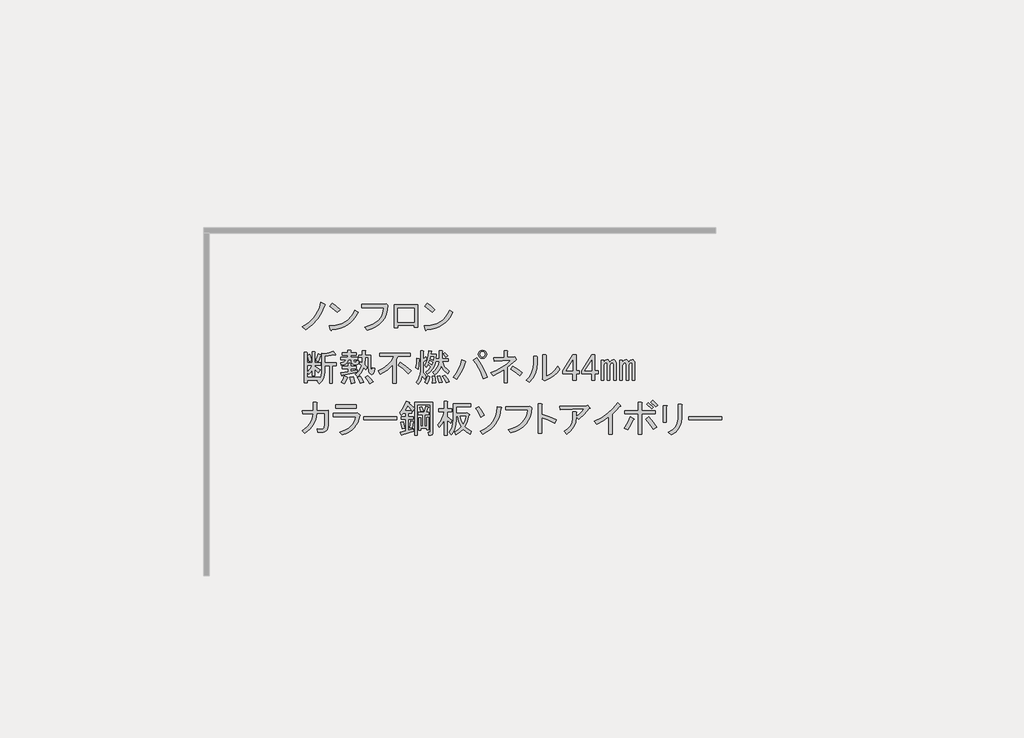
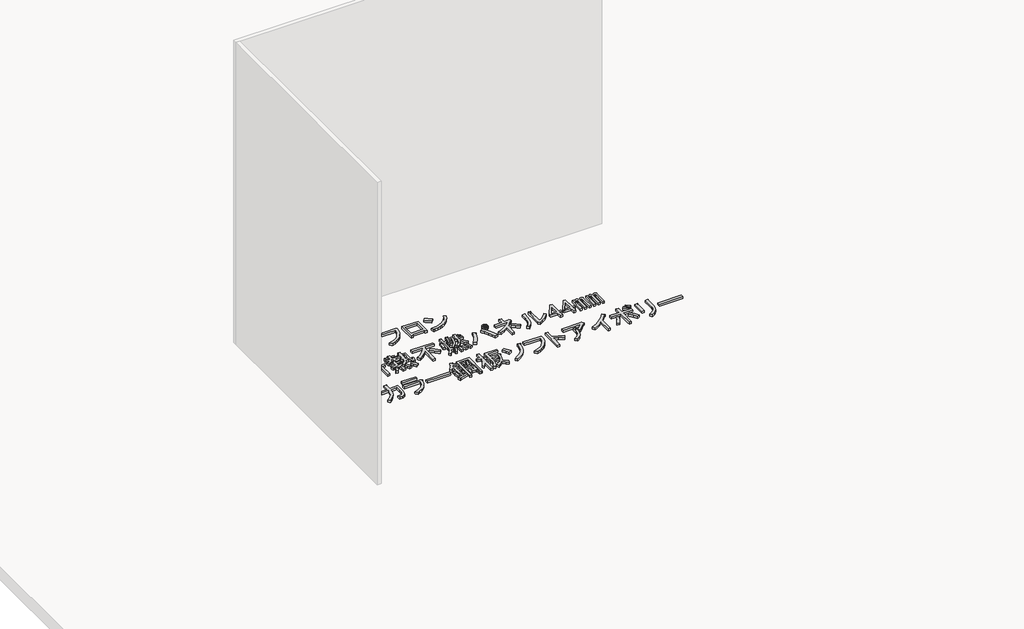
# One storey, part 8 of 117: 1 proxy.
"""IFC4 building model written with IfcOpenShell, lengths in millimetres."""

from ifc_helpers import new_model, si_unit, frame, origin, place, context, project, spatial, polyline, outline, extrude, element, save

model = new_model("IFC4")

# Units and contexts
model_context = context("Model", 3, world=origin())
ifc_project = project(units=[si_unit("LENGTHUNIT", "METRE", prefix="MILLI")], contexts=[model_context])

# Site, building, storey
site = spatial("IfcSite", under=ifc_project)
building = spatial("IfcBuilding", under=site)
storey = spatial("IfcBuildingStorey", under=building, Name="レベル 1", Elevation=500.0)

# Proxy
placement = place(None, origin())
element("IfcBuildingElementProxy", 1, Name="200㎜\u3000MS Pゴシック", ObjectType="200㎜\u3000MS Pゴシック", at=placement, inside=storey, context=model_context, shape_type="SweptSolid", body=[
    extrude(outline(polyline([(-23056.3293015, -20607.0496882), (-23081.9047498, -20666.8215225), (-23110.353844, -20712.7998566), (-23152.0217093, -20758.2034615), (-23201.1610538, -20795.560858), (-23228.7480543, -20773.7211493), (-23181.0455327, -20743.2605029), (-23141.3892195, -20704.7536481), (-23124.0036619, -20680.8305462), (-23108.6296565, -20652.7406577), (-23095.2672031, -20620.4839827), (-23083.9163019, -20584.0605212), (-23052.8809264, -20597.8540214), (-23049.7199159, -20602.4518548), (-23056.3293015, -20607.0496882)])), frame((0.0, 0.0, 500.0), z_axis=(0.0, 0.0, 1.0), x_axis=(1.0, 0.0, 0.0)), (0.0, 0.0, 1.0), 25.0),
    extrude(outline(polyline([(-22956.6022948, -20662.2236891), (-23015.2246708, -20615.0958967), (-22995.6838788, -20590.9572713), (-22968.3842429, -20610.7854279), (-22934.7625862, -20640.3839804), (-22956.6022948, -20662.2236891)])), frame((0.0, 0.0, 500.0), z_axis=(0.0, 0.0, 1.0), x_axis=(1.0, 0.0, 0.0)), (0.0, 0.0, 1.0), 25.0),
    extrude(outline(polyline([(-22794.5286672, -20662.2236891), (-22811.052131, -20691.965924), (-22830.1618761, -20717.9724192), (-22851.8579025, -20740.2431748), (-22876.1402102, -20758.7781907), (-22903.0087992, -20773.577467), (-22932.4636694, -20784.6410036), (-22964.504821, -20791.9688006), (-22999.1322539, -20795.560858), (-23004.8795456, -20803.6070664), (-23010.6268374, -20797.8597747), (-23019.8225042, -20767.9738575), (-22983.9917321, -20765.2977748), (-22951.2142088, -20758.9937141), (-22921.4899342, -20749.0616756), (-22894.8189084, -20735.5016591), (-22871.2011313, -20718.3136646), (-22850.636603, -20697.4976923), (-22833.1253234, -20673.053742), (-22818.6672926, -20644.9818138), (-22794.5286672, -20662.2236891)])), frame((0.0, 0.0, 500.0), z_axis=(0.0, 0.0, 1.0), x_axis=(1.0, 0.0, 0.0)), (0.0, 0.0, 1.0), 25.0),
    extrude(outline(polyline([(-22743.7685864, -20777.1695243), (-22709.985287, -20767.4889298), (-22680.4765359, -20755.1142922), (-22655.242333, -20740.0456116), (-22634.2826783, -20722.282888), (-22617.597572, -20701.8261214), (-22605.1870138, -20678.6753118), (-22597.0510039, -20652.8304591), (-22593.1895423, -20624.2915635), (-22765.6082951, -20624.2915635), (-22765.6082951, -20599.0034798), (-22590.8906256, -20599.0034798), (-22574.7982086, -20595.5551047), (-22562.1541668, -20607.0496882), (-22565.674383, -20643.5449909), (-22573.9361149, -20676.5919185), (-22586.9393625, -20706.1904711), (-22604.6841258, -20732.3406486), (-22627.1704048, -20755.042451), (-22654.3981995, -20774.2958784), (-22686.3675099, -20790.1009308), (-22723.078336, -20802.4576081), (-22743.7685864, -20777.1695243)])), frame((0.0, 0.0, 500.0), z_axis=(0.0, 0.0, 1.0), x_axis=(1.0, 0.0, 0.0)), (0.0, 0.0, 1.0), 25.0),
    extrude(outline(polyline([(-22329.044013, -20776.020066), (-22355.4815551, -20776.020066), (-22355.4815551, -20763.3760241), (-22483.0714321, -20763.3760241), (-22483.0714321, -20781.7673577), (-22509.5089742, -20781.7673577), (-22509.5089742, -20602.4518548), (-22329.044013, -20602.4518548), (-22329.044013, -20776.020066)]), holes=[polyline([(-22483.0714321, -20627.7399386), (-22483.0714321, -20738.0879404), (-22355.4815551, -20738.0879404), (-22355.4815551, -20627.7399386), (-22483.0714321, -20627.7399386)])]), frame((0.0, 0.0, 500.0), z_axis=(0.0, 0.0, 1.0), x_axis=(1.0, 0.0, 0.0)), (0.0, 0.0, 1.0), 25.0),
    extrude(outline(polyline([(-22052.9900951, -20662.2236891), (-22069.5135589, -20691.965924), (-22088.623304, -20717.9724192), (-22110.3193304, -20740.2431748), (-22134.6016381, -20758.7781907), (-22161.4702271, -20773.577467), (-22190.9250974, -20784.6410036), (-22222.9662489, -20791.9688006), (-22257.5936818, -20795.560858), (-22263.3409736, -20803.6070664), (-22269.0882653, -20797.8597747), (-22278.2839321, -20767.9738575), (-22242.4531601, -20765.2977748), (-22209.6756367, -20758.9937141), (-22179.9513622, -20749.0616756), (-22153.2803363, -20735.5016591), (-22129.6625593, -20718.3136646), (-22109.0980309, -20697.4976923), (-22091.5867514, -20673.053742), (-22077.1287205, -20644.9818138), (-22052.9900951, -20662.2236891)])), frame((0.0, 0.0, 500.0), z_axis=(0.0, 0.0, 1.0), x_axis=(1.0, 0.0, 0.0)), (0.0, 0.0, 1.0), 25.0),
    extrude(outline(polyline([(-22215.0637228, -20662.2236891), (-22273.6860987, -20615.0958967), (-22254.1453067, -20590.9572713), (-22226.8456709, -20610.7854279), (-22193.2240141, -20640.3839804), (-22215.0637228, -20662.2236891)])), frame((0.0, 0.0, 500.0), z_axis=(0.0, 0.0, 1.0), x_axis=(1.0, 0.0, 0.0)), (0.0, 0.0, 1.0), 25.0),
    extrude(outline(polyline([(-23122.9978859, -21039.2345221), (-23105.7560106, -20986.3594379), (-23085.0657603, -20992.1067296), (-23083.3415727, -20995.2677401), (-23087.364677, -20997.8540214), (-23104.6065523, -21046.1312722), (-23122.9978859, -21039.2345221)])), frame((0.0, 0.0, 500.0), z_axis=(0.0, 0.0, 1.0), x_axis=(1.0, 0.0, 0.0)), (0.0, 0.0, 1.0), 25.0),
    extrude(outline(polyline([(-22968.9704667, -20990.9572713), (-22970.6946542, -20995.5551047), (-22978.1661335, -20993.256188), (-23055.1798431, -21005.9002299), (-23055.1798431, -21055.326939), (-22963.2231749, -21055.326939), (-22963.2231749, -21077.1666477), (-22994.2585505, -21077.1666477), (-22994.2585505, -21217.4005666), (-23017.2477175, -21217.4005666), (-23017.2477175, -21077.1666477), (-23055.1798431, -21077.1666477), (-23055.1798431, -21126.5933568), (-23057.7661244, -21154.3958807), (-23065.5249683, -21179.1810764), (-23078.4563747, -21200.948944), (-23096.5603438, -21219.6994833), (-23113.8022191, -21200.1586914), (-23103.4570939, -21190.9630245), (-23193.1148454, -21190.9630245), (-23193.1148454, -21212.8027332), (-23216.1040124, -21212.8027332), (-23216.1040124, -20973.715396), (-23194.2643037, -20973.715396), (-23189.3791057, -20976.0143127), (-23193.1148454, -20980.6121461), (-23193.1148454, -21056.4763974), (-23150.5848863, -21056.4763974), (-23150.5848863, -20969.1175626), (-23132.1935527, -20969.1175626), (-23127.3083547, -20971.4164793), (-23131.0440943, -20976.0143127), (-23131.0440943, -21056.4763974), (-23087.364677, -21056.4763974), (-23087.364677, -21074.867731), (-23131.0440943, -21074.867731), (-23131.0440943, -21084.0633978), (-23090.813052, -21110.5009399), (-23104.6065523, -21132.3406486), (-23131.0440943, -21105.9031065), (-23131.0440943, -21158.7781907), (-23150.5848863, -21158.7781907), (-23150.5848863, -21110.5009399), (-23163.8036574, -21130.3290965), (-23178.1718868, -21146.1341488), (-23190.8159287, -21127.7428152), (-23168.97622, -21103.6041898), (-23151.7343447, -21074.867731), (-23193.1148454, -21074.867731), (-23193.1148454, -21169.1233159), (-23095.4108854, -21169.1233159), (-23095.4108854, -21182.9168161), (-23082.479479, -21158.7781907), (-23078.1690102, -21125.4438985), (-23078.1690102, -20980.6121461), (-23056.3293015, -20986.3594379), (-23020.1213634, -20978.8879586), (-22989.660717, -20965.6691875), (-22968.9704667, -20990.9572713)])), frame((0.0, 0.0, 500.0), z_axis=(0.0, 0.0, 1.0), x_axis=(1.0, 0.0, 0.0)), (0.0, 0.0, 1.0), 25.0),
    extrude(outline(polyline([(-23177.0224284, -21047.2807305), (-23189.6664703, -20996.7045631), (-23170.1256783, -20989.8078129), (-23162.3668344, -21013.9464383), (-23157.4816364, -21040.3839804), (-23177.0224284, -21047.2807305)])), frame((0.0, 0.0, 500.0), z_axis=(0.0, 0.0, 1.0), x_axis=(1.0, 0.0, 0.0)), (0.0, 0.0, 1.0), 25.0),
    extrude(outline(polyline([(-22878.1632569, -21167.9738575), (-22874.7148818, -21172.8590555), (-22880.4621736, -21176.020066), (-22890.2325696, -21201.5955143), (-22901.1524239, -21220.8489417), (-22924.141591, -21209.3543582), (-22911.4975491, -21185.790462), (-22901.1524239, -21158.7781907), (-22878.1632569, -21167.9738575)])), frame((0.0, 0.0, 500.0), z_axis=(0.0, 0.0, 1.0), x_axis=(1.0, 0.0, 0.0)), (0.0, 0.0, 1.0), 25.0),
    extrude(outline(polyline([(-22833.3343812, -21163.3760241), (-22823.2766206, -21190.67566), (-22818.3914226, -21212.8027332), (-22847.1278814, -21218.550025), (-22849.7141627, -21196.9976809), (-22857.4730066, -21166.8243992), (-22833.3343812, -21163.3760241)])), frame((0.0, 0.0, 500.0), z_axis=(0.0, 0.0, 1.0), x_axis=(1.0, 0.0, 0.0)), (0.0, 0.0, 1.0), 25.0),
    extrude(outline(polyline([(-22718.388546, -21157.6287323), (-22693.6751914, -21178.8937119), (-22674.7091286, -21203.6070664), (-22701.1466707, -21218.550025), (-22720.4000981, -21188.9514724), (-22739.0787963, -21169.1233159), (-22718.388546, -21157.6287323)])), frame((0.0, 0.0, 500.0), z_axis=(0.0, 0.0, 1.0), x_axis=(1.0, 0.0, 0.0)), (0.0, 0.0, 1.0), 25.0),
    extrude(outline(polyline([(-22777.0109219, -21216.2511083), (-22785.344495, -21191.5377537), (-22798.8506306, -21170.2727742), (-22778.1603803, -21162.2265657), (-22761.2058696, -21183.7789098), (-22749.4239215, -21207.0554415), (-22777.0109219, -21216.2511083)])), frame((0.0, 0.0, 500.0), z_axis=(0.0, 0.0, 1.0), x_axis=(1.0, 0.0, 0.0)), (0.0, 0.0, 1.0), 25.0),
    extrude(outline(polyline([(-22916.0953825, -21153.0308989), (-22918.1069346, -21157.9160969), (-22921.8426743, -21156.479274), (-22927.589966, -21132.3406486), (-22872.4159651, -21124.2944401), (-22872.4159651, -21101.3052731), (-22916.0953825, -21101.3052731), (-22916.0953825, -21082.9139395), (-22872.4159651, -21082.9139395), (-22872.4159651, -21059.9247724), (-22854.0246315, -21059.9247724), (-22849.1394335, -21062.2236891), (-22852.8751732, -21066.8215225), (-22852.8751732, -21082.9139395), (-22808.0462974, -21082.9139395), (-22808.0462974, -21101.3052731), (-22852.8751732, -21101.3052731), (-22852.8751732, -21120.8460651), (-22802.2990057, -21111.6503983), (-22802.2990057, -21127.7428152), (-22916.0953825, -21153.0308989)])), frame((0.0, 0.0, 500.0), z_axis=(0.0, 0.0, 1.0), x_axis=(1.0, 0.0, 0.0)), (0.0, 0.0, 1.0), 25.0),
    extrude(outline(polyline([(-22845.978423, -21031.1883136), (-22871.2665068, -21031.1883136), (-22875.8643402, -21048.6457123), (-22886.2094654, -21061.9363245), (-22902.3018823, -21071.0601502), (-22924.141591, -21076.0171893), (-22928.7394244, -21056.4763974), (-22903.4513406, -21047.8554597), (-22895.9798614, -21040.5276627), (-22891.9567571, -21031.1883136), (-22927.589966, -21031.1883136), (-22927.589966, -21012.79698), (-22873.5654235, -21012.79698), (-22873.5654235, -20995.5551047), (-22917.2448409, -20995.5551047), (-22917.2448409, -20977.1637711), (-22873.5654235, -20977.1637711), (-22873.5654235, -20958.7724374), (-22851.7257148, -20958.7724374), (-22846.8405168, -20961.0713541), (-22850.5762564, -20965.6691875), (-22850.5762564, -20977.1637711), (-22808.0462974, -20977.1637711), (-22808.0462974, -20995.5551047), (-22850.5762564, -20995.5551047), (-22850.5762564, -21012.79698), (-22797.7011723, -21012.79698), (-22797.7011723, -21031.1883136), (-22826.4376311, -21031.1883136), (-22826.4376311, -21043.8323555), (-22825.0008081, -21049.0049181), (-22820.6903393, -21050.7291056), (-22810.3452141, -21050.7291056), (-22806.6094745, -21047.5680951), (-22806.8968391, -21038.0850637), (-22787.3560471, -21040.3839804), (-22790.229693, -21061.9363245), (-22795.5459378, -21067.3244106), (-22803.448464, -21069.1204392), (-22827.5870894, -21069.1204392), (-22841.3805896, -21064.2352412), (-22845.978423, -21049.5796472), (-22845.978423, -21031.1883136)])), frame((0.0, 0.0, 500.0), z_axis=(0.0, 0.0, 1.0), x_axis=(1.0, 0.0, 0.0)), (0.0, 0.0, 1.0), 25.0),
    extrude(outline(polyline([(-22714.9401709, -21013.9464383), (-22736.7798796, -21013.9464383), (-22741.377713, -21071.4193559), (-22721.836921, -21089.8106896), (-22732.1820462, -21111.6503983), (-22748.2744631, -21095.5579813), (-22767.5278905, -21133.2027424), (-22797.7011723, -21165.6749408), (-22814.9430475, -21144.9846905), (-22799.8564067, -21133.0590601), (-22786.7813179, -21117.9724192), (-22775.7177813, -21099.7247679), (-22766.6657967, -21078.316106), (-22783.907672, -21063.3731475), (-22775.8614636, -21046.1312722), (-22762.0679633, -21056.4763974), (-22759.7690466, -21013.9464383), (-22787.3560471, -21013.9464383), (-22787.3560471, -20995.5551047), (-22759.7690466, -20995.5551047), (-22759.7690466, -20961.0713541), (-22737.9293379, -20961.0713541), (-22733.04414, -20963.3702708), (-22736.7798796, -20967.9681043), (-22736.7798796, -20995.5551047), (-22695.3993789, -20995.5551047), (-22695.3993789, -21092.1096063), (-22691.9510039, -21116.2482317), (-22688.7181523, -21118.2597838), (-22685.9163475, -21115.0987733), (-22681.6058787, -21093.2590646), (-22662.0650867, -21100.1558147), (-22666.591079, -21126.9525626), (-22674.421764, -21142.9731384), (-22685.5571418, -21148.2175421), (-22699.9972123, -21142.6857738), (-22706.5347567, -21135.3579768), (-22711.2044313, -21123.719711), (-22714.9401709, -21087.5117729), (-22714.9401709, -21013.9464383)])), frame((0.0, 0.0, 500.0), z_axis=(0.0, 0.0, 1.0), x_axis=(1.0, 0.0, 0.0)), (0.0, 0.0, 1.0), 25.0),
    extrude(outline(polyline([(-22626.4318778, -20980.6121461), (-22385.0456239, -20980.6121461), (-22385.0456239, -21005.9002299), (-22485.0485005, -21005.9002299), (-22495.3936257, -21030.0388553), (-22495.3936257, -21216.2511083), (-22521.8311678, -21216.2511083), (-22521.8311678, -21069.1204392), (-22542.6651004, -21092.3969709), (-22566.0853143, -21112.7998566), (-22592.0918095, -21130.3290965), (-22620.684586, -21144.9846905), (-22636.777003, -21118.5471484), (-22597.192531, -21098.1442626), (-22563.499033, -21072.5688143), (-22535.6965091, -21041.8208034), (-22513.7849593, -21005.9002299), (-22626.4318778, -21005.9002299), (-22626.4318778, -20980.6121461)])), frame((0.0, 0.0, 500.0), z_axis=(0.0, 0.0, 1.0), x_axis=(1.0, 0.0, 0.0)), (0.0, 0.0, 1.0), 25.0),
    extrude(outline(polyline([(-22399.9885824, -21141.5363154), (-22439.0701664, -21103.3168252), (-22480.4506671, -21073.7182726), (-22464.3582502, -21053.0280223), (-22420.6788328, -21081.1897519), (-22379.2983321, -21119.6966067), (-22399.9885824, -21141.5363154)])), frame((0.0, 0.0, 500.0), z_axis=(0.0, 0.0, 1.0), x_axis=(1.0, 0.0, 0.0)), (0.0, 0.0, 1.0), 25.0),
    extrude(outline(polyline([(-22232.167663, -21163.3760241), (-22240.7886007, -21193.8366704), (-22255.1568301, -21220.8489417), (-22274.6976221, -21208.2048998), (-22260.6167573, -21183.4915453), (-22250.5589967, -21155.3298156), (-22232.167663, -21163.3760241)])), frame((0.0, 0.0, 500.0), z_axis=(0.0, 0.0, 1.0), x_axis=(1.0, 0.0, 0.0)), (0.0, 0.0, 1.0), 25.0),
    extrude(outline(polyline([(-22317.2275811, -21025.4410219), (-22312.6297477, -21027.7399386), (-22317.2275811, -21032.337772), (-22318.3770395, -21071.9940851), (-22324.1243312, -21105.9031065), (-22342.5156648, -21093.2590646), (-22336.7683731, -21058.7753141), (-22335.6189147, -21021.9926468), (-22317.2275811, -21025.4410219)])), frame((0.0, 0.0, 500.0), z_axis=(0.0, 0.0, 1.0), x_axis=(1.0, 0.0, 0.0)), (0.0, 0.0, 1.0), 25.0),
    extrude(outline(polyline([(-22265.5019553, -21007.0496882), (-22256.3062884, -21024.2915635), (-22254.8694655, -21030.3262199), (-22259.7546635, -21030.0388553), (-22286.1922056, -21050.7291056), (-22286.1922056, -21134.6395653), (-22272.3987054, -21146.9962426), (-22260.9041219, -21163.3760241), (-22273.5481637, -21184.0662744), (-22291.9394974, -21158.7781907), (-22303.7214455, -21194.6987642), (-22325.2737896, -21224.2973168), (-22340.2167481, -21205.9059831), (-22325.1301073, -21187.1554438), (-22314.3539352, -21166.5370346), (-22307.888232, -21144.0507556), (-22305.7329976, -21119.6966067), (-22305.7329976, -20962.2208125), (-22287.3416639, -20962.2208125), (-22282.456466, -20964.5197292), (-22286.1922056, -20969.1175626), (-22286.1922056, -21027.7399386), (-22265.5019553, -21007.0496882)])), frame((0.0, 0.0, 500.0), z_axis=(0.0, 0.0, 1.0), x_axis=(1.0, 0.0, 0.0)), (0.0, 0.0, 1.0), 25.0),
    extrude(outline(polyline([(-22114.9229111, -20976.0143127), (-22093.0832025, -21000.1529381), (-22110.3250777, -21011.6475216), (-22116.9344633, -21000.1529381), (-22129.8658697, -20986.3594379), (-22114.9229111, -20976.0143127)])), frame((0.0, 0.0, 500.0), z_axis=(0.0, 0.0, 1.0), x_axis=(1.0, 0.0, 0.0)), (0.0, 0.0, 1.0), 25.0),
    extrude(outline(polyline([(-22104.577786, -21212.8027332), (-22117.796557, -21184.6410036), (-22134.4637031, -21159.927649), (-22116.0723695, -21151.8814406), (-22097.1063067, -21174.8706076), (-22081.5886189, -21202.4576081), (-22104.577786, -21212.8027332)])), frame((0.0, 0.0, 500.0), z_axis=(0.0, 0.0, 1.0), x_axis=(1.0, 0.0, 0.0)), (0.0, 0.0, 1.0), 25.0),
    extrude(outline(polyline([(-22154.0044951, -21157.6287323), (-22135.6131615, -21207.0554415), (-22159.7517869, -21211.6532749), (-22173.5452871, -21161.0771074), (-22154.0044951, -21157.6287323)])), frame((0.0, 0.0, 500.0), z_axis=(0.0, 0.0, 1.0), x_axis=(1.0, 0.0, 0.0)), (0.0, 0.0, 1.0), 25.0),
    extrude(outline(polyline([(-22212.6268711, -21215.1016499), (-22212.0521419, -21188.0893787), (-22214.9257878, -21159.927649), (-22195.3849958, -21158.7781907), (-22189.0629748, -21184.9283682), (-22188.4882457, -21212.8027332), (-22212.6268711, -21215.1016499)])), frame((0.0, 0.0, 500.0), z_axis=(0.0, 0.0, 1.0), x_axis=(1.0, 0.0, 0.0)), (0.0, 0.0, 1.0), 25.0),
    extrude(outline(polyline([(-22093.0832025, -21142.6857738), (-22123.8312134, -21112.2251274), (-22144.8088283, -21078.316106), (-22153.2142425, -21100.4431793), (-22164.6369849, -21119.6966067), (-22179.0770554, -21136.0763882), (-22196.5344541, -21149.5825239), (-22210.3279544, -21131.1911902), (-22189.4940217, -21112.2969686), (-22174.1200163, -21091.2475125), (-22164.205938, -21068.042822), (-22159.7517869, -21042.6828971), (-22188.4882457, -21042.6828971), (-22196.462613, -21073.2872258), (-22210.0405898, -21100.7305439), (-22229.222176, -21125.0128516), (-22254.0073717, -21146.1341488), (-22266.6514136, -21130.0417319), (-22240.7886007, -21108.4893878), (-22225.2709129, -21087.5117729), (-22247.1106216, -21067.9709809), (-22260.9041219, -21088.6612312), (-22274.6976221, -21073.7182726), (-22262.2691036, -21054.6803687), (-22252.5705488, -21029.7514907), (-22245.6019575, -20998.9316386), (-22241.3633299, -20962.2208125), (-22220.6730795, -20964.5197292), (-22217.2247045, -20967.1060105), (-22222.9719962, -20970.267021), (-22225.2709129, -20988.6583546), (-22181.5914956, -20988.6583546), (-22185.0398706, -21024.2915635), (-22159.7517869, -21024.2915635), (-22159.7517869, -20962.2208125), (-22137.9120782, -20962.2208125), (-22133.0268802, -20964.5197292), (-22136.7626198, -20969.1175626), (-22136.7626198, -21024.2915635), (-22087.3359107, -21024.2915635), (-22087.3359107, -21042.6828971), (-22136.7626198, -21042.6828971), (-22130.2250755, -21064.4507647), (-22118.6586508, -21084.9254916), (-22102.0633458, -21104.1070778), (-22080.4391606, -21121.9955234), (-22093.0832025, -21142.6857738)]), holes=[polyline([(-22217.2247045, -21072.5688143), (-22210.3279544, -21053.0280223), (-22235.6160381, -21036.9356054), (-22241.3633299, -21054.1774807), (-22217.2247045, -21072.5688143)]), polyline([(-22227.5698296, -21007.0496882), (-22231.0182047, -21023.1421052), (-22205.730121, -21036.9356054), (-22201.1322875, -21007.0496882), (-22227.5698296, -21007.0496882)])]), frame((0.0, 0.0, 500.0), z_axis=(0.0, 0.0, 1.0), x_axis=(1.0, 0.0, 0.0)), (0.0, 0.0, 1.0), 25.0),
    extrude(outline(polyline([(-21867.7893655, -21016.245355), (-21841.1362999, -21052.9561812), (-21818.6500209, -21090.6727833), (-21800.3305284, -21129.3951616), (-21786.1778225, -21169.1233159), (-21817.213198, -21179.468441), (-21832.6590446, -21136.3637528), (-21850.2601256, -21097.856898), (-21870.016441, -21063.9478766), (-21891.9279908, -21034.6366887), (-21867.7893655, -21016.245355)])), frame((0.0, 0.0, 500.0), z_axis=(0.0, 0.0, 1.0), x_axis=(1.0, 0.0, 0.0)), (0.0, 0.0, 1.0), 25.0),
    extrude(outline(polyline([(-21955.1482002, -21042.6828971), (-21951.125096, -21048.1428243), (-21957.4471169, -21053.0280223), (-21969.3727473, -21088.4457078), (-21984.4593882, -21122.282888), (-22002.7070395, -21154.539563), (-22024.1157013, -21185.2157328), (-22050.5532434, -21167.9738575), (-22027.3485529, -21136.5074351), (-22008.310649, -21103.0294606), (-21993.4395316, -21067.539934), (-21982.7352007, -21030.0388553), (-21955.1482002, -21042.6828971)])), frame((0.0, 0.0, 500.0), z_axis=(0.0, 0.0, 1.0), x_axis=(1.0, 0.0, 0.0)), (0.0, 0.0, 1.0), 25.0),
    extrude(outline(polyline([(-21821.8110314, -21021.9926468), (-21834.4550732, -21019.6937301), (-21844.8001984, -21012.79698), (-21851.6969485, -21002.4518548), (-21853.9958652, -20989.8078129), (-21851.6969485, -20977.1637711), (-21844.8001984, -20966.8186459), (-21834.4550732, -20959.9218958), (-21821.8110314, -20957.6229791), (-21809.1669895, -20959.9218958), (-21798.8218643, -20966.8186459), (-21791.9251142, -20977.1637711), (-21789.6261975, -20989.8078129), (-21791.9251142, -21002.4518548), (-21798.8218643, -21012.79698), (-21809.1669895, -21019.6937301), (-21821.8110314, -21021.9926468)]), holes=[polyline([(-21821.8110314, -21010.4980633), (-21813.4774583, -21009.0612403), (-21806.8680728, -21004.7507715), (-21802.557604, -20998.141386), (-21801.120781, -20989.8078129), (-21802.557604, -20981.4742399), (-21806.8680728, -20974.8648544), (-21813.4774583, -20970.5543855), (-21821.8110314, -20969.1175626), (-21830.1446044, -20970.5543855), (-21836.7539899, -20974.8648544), (-21841.0644588, -20981.4742399), (-21842.5012817, -20989.8078129), (-21841.0644588, -20998.141386), (-21836.7539899, -21004.7507715), (-21830.1446044, -21009.0612403), (-21821.8110314, -21010.4980633)])]), frame((0.0, 0.0, 500.0), z_axis=(0.0, 0.0, 1.0), x_axis=(1.0, 0.0, 0.0)), (0.0, 0.0, 1.0), 25.0),
    extrude(outline(polyline([(-21578.1258607, -21011.6475216), (-21571.2291106, -21009.3486049), (-21558.5850688, -21026.5904802), (-21557.4356104, -21032.6251366), (-21563.1829022, -21034.6366887), (-21626.4031115, -21090.9601479), (-21626.4031115, -21211.6532749), (-21652.8406536, -21211.6532749), (-21652.8406536, -21109.3514816), (-21693.0716959, -21133.4901069), (-21737.9005717, -21155.3298156), (-21757.4413637, -21134.6395653), (-21711.8940765, -21115.1706145), (-21670.6572581, -21092.3969709), (-21633.7309085, -21066.3186345), (-21601.1150278, -21036.9356054), (-21731.0038216, -21042.6828971), (-21734.4521966, -21017.3948134), (-21652.8406536, -21015.0958967), (-21652.8406536, -20963.3702708), (-21629.8514866, -20963.3702708), (-21623.8168302, -20966.8186459), (-21626.4031115, -20972.5659377), (-21626.4031115, -21013.9464383), (-21578.1258607, -21011.6475216)])), frame((0.0, 0.0, 500.0), z_axis=(0.0, 0.0, 1.0), x_axis=(1.0, 0.0, 0.0)), (0.0, 0.0, 1.0), 25.0),
    extrude(outline(polyline([(-21532.1475267, -21155.3298156), (-21569.2175585, -21126.0186277), (-21602.2644861, -21104.7536481), (-21585.0226108, -21082.9139395), (-21546.2283915, -21106.1904711), (-21512.6067347, -21132.3406486), (-21532.1475267, -21155.3298156)])), frame((0.0, 0.0, 500.0), z_axis=(0.0, 0.0, 1.0), x_axis=(1.0, 0.0, 0.0)), (0.0, 0.0, 1.0), 25.0),
    extrude(outline(polyline([(-21325.1530666, -21162.2265657), (-21300.3678709, -21150.0135708), (-21276.5884512, -21132.9153778), (-21253.8148076, -21110.9319868), (-21232.0469401, -21084.0633978), (-21215.9545232, -21105.9031065), (-21239.2310548, -21133.7056304), (-21265.3812323, -21157.3413678), (-21294.4050557, -21176.8103186), (-21326.302525, -21192.1124829), (-21335.4981918, -21196.7103163), (-21353.8895254, -21182.9168161), (-21351.5906087, -21177.1695243), (-21351.5906087, -20992.1067296), (-21327.4519833, -20992.1067296), (-21321.7046916, -20995.5551047), (-21325.1530666, -21001.3023965), (-21325.1530666, -21162.2265657)])), frame((0.0, 0.0, 500.0), z_axis=(0.0, 0.0, 1.0), x_axis=(1.0, 0.0, 0.0)), (0.0, 0.0, 1.0), 25.0),
    extrude(outline(polyline([(-21479.1804858, -21193.2619413), (-21454.0360843, -21164.0225944), (-21436.0757976, -21131.4785548), (-21425.2996255, -21095.6298225), (-21421.7075682, -21056.4763974), (-21421.7075682, -21004.7507715), (-21397.5689428, -21004.7507715), (-21391.821651, -21008.1991466), (-21395.2700261, -21013.9464383), (-21395.2700261, -21055.326939), (-21399.0776069, -21101.0897496), (-21410.5003493, -21141.82368), (-21429.5382532, -21177.5287301), (-21456.1913188, -21208.2048998), (-21479.1804858, -21193.2619413)])), frame((0.0, 0.0, 500.0), z_axis=(0.0, 0.0, 1.0), x_axis=(1.0, 0.0, 0.0)), (0.0, 0.0, 1.0), 25.0),
    extrude(outline(polyline([(-21115.9516465, -20993.256188), (-21089.5141045, -20993.256188), (-21089.5141045, -21119.6966067), (-21065.3754791, -21119.6966067), (-21065.3754791, -21141.5363154), (-21089.5141045, -21141.5363154), (-21089.5141045, -21192.1124829), (-21115.9516465, -21192.1124829), (-21115.9516465, -21141.5363154), (-21192.9653561, -21141.5363154), (-21192.9653561, -21118.5471484), (-21115.9516465, -20993.256188)]), holes=[polyline([(-21115.9516465, -21035.786147), (-21167.6772724, -21119.6966067), (-21115.9516465, -21119.6966067), (-21115.9516465, -21035.786147)])]), frame((0.0, 0.0, 500.0), z_axis=(0.0, 0.0, 1.0), x_axis=(1.0, 0.0, 0.0)), (0.0, 0.0, 1.0), 25.0),
    extrude(outline(polyline([(-20968.8209775, -20993.256188), (-20942.3834354, -20993.256188), (-20942.3834354, -21119.6966067), (-20918.24481, -21119.6966067), (-20918.24481, -21141.5363154), (-20942.3834354, -21141.5363154), (-20942.3834354, -21192.1124829), (-20968.8209775, -21192.1124829), (-20968.8209775, -21141.5363154), (-21045.8346871, -21141.5363154), (-21045.8346871, -21118.5471484), (-20968.8209775, -20993.256188)]), holes=[polyline([(-20968.8209775, -21035.786147), (-21020.5466033, -21119.6966067), (-20968.8209775, -21119.6966067), (-20968.8209775, -21035.786147)])]), frame((0.0, 0.0, 500.0), z_axis=(0.0, 0.0, 1.0), x_axis=(1.0, 0.0, 0.0)), (0.0, 0.0, 1.0), 25.0),
    extrude(outline(polyline([(-20874.5653926, -21193.2619413), (-20894.1061846, -21193.2619413), (-20894.1061846, -21035.786147), (-20874.5653926, -21035.786147), (-20874.5653926, -21053.0280223), (-20862.4960799, -21037.5103346), (-20849.2773089, -21032.337772), (-20840.0816421, -21033.7745949), (-20833.1848919, -21038.0850637), (-20826.2881418, -21051.878564), (-20813.3567354, -21037.22297), (-20799.8505997, -21032.337772), (-20791.5170267, -21033.7745949), (-20784.9076412, -21038.0850637), (-20779.7350786, -21046.7060014), (-20778.010891, -21058.7753141), (-20778.010891, -21193.2619413), (-20797.551683, -21193.2619413), (-20797.551683, -21069.1204392), (-20800.1379643, -21059.6374078), (-20807.8968082, -21056.4763974), (-20818.2419334, -21061.0742308), (-20824.2765897, -21069.6951684), (-20826.2881418, -21079.4655644), (-20826.2881418, -21193.2619413), (-20845.8289338, -21193.2619413), (-20845.8289338, -21069.1204392), (-20848.4152151, -21059.6374078), (-20856.174059, -21056.4763974), (-20866.5191842, -21061.0742308), (-20872.5538405, -21069.6951684), (-20874.5653926, -21079.4655644), (-20874.5653926, -21193.2619413)])), frame((0.0, 0.0, 500.0), z_axis=(0.0, 0.0, 1.0), x_axis=(1.0, 0.0, 0.0)), (0.0, 0.0, 1.0), 25.0),
    extrude(outline(polyline([(-20652.7199307, -21032.337772), (-20644.3863576, -21033.7745949), (-20637.7769721, -21038.0850637), (-20632.6044095, -21046.7060014), (-20630.880222, -21058.7753141), (-20630.880222, -21193.2619413), (-20650.421014, -21193.2619413), (-20650.421014, -21069.1204392), (-20653.0072953, -21059.6374078), (-20660.7661391, -21056.4763974), (-20671.1112643, -21061.0742308), (-20677.1459207, -21069.6951684), (-20679.1574728, -21079.4655644), (-20679.1574728, -21193.2619413), (-20698.6982648, -21193.2619413), (-20698.6982648, -21069.1204392), (-20701.284546, -21059.6374078), (-20709.0433899, -21056.4763974), (-20719.3885151, -21061.0742308), (-20725.4231714, -21069.6951684), (-20727.4347236, -21079.4655644), (-20727.4347236, -21193.2619413), (-20746.9755155, -21193.2619413), (-20746.9755155, -21035.786147), (-20727.4347236, -21035.786147), (-20727.4347236, -21053.0280223), (-20715.3654109, -21037.5103346), (-20702.1466398, -21032.337772), (-20692.950973, -21033.7745949), (-20686.0542229, -21038.0850637), (-20679.1574728, -21051.878564), (-20666.2260663, -21037.22297), (-20652.7199307, -21032.337772)])), frame((0.0, 0.0, 500.0), z_axis=(0.0, 0.0, 1.0), x_axis=(1.0, 0.0, 0.0)), (0.0, 0.0, 1.0), 25.0),
    extrude(outline(polyline([(-23052.8809264, -21450.7291056), (-23118.4000525, -21453.0280223), (-23126.6617844, -21499.293721), (-23144.55023, -21540.3868571), (-23172.0653893, -21576.3074306), (-23209.2072623, -21607.0554415), (-23228.7480543, -21587.5146495), (-23193.7614157, -21559.2810787), (-23168.1141262, -21527.4554506), (-23151.8061858, -21492.0377651), (-23144.8375946, -21453.0280223), (-23226.4491376, -21455.326939), (-23228.7480543, -21432.337772), (-23143.6881362, -21430.0388553), (-23143.6881362, -21365.6691875), (-23119.5495108, -21365.6691875), (-23112.6527607, -21369.1175626), (-23117.2505941, -21374.8648544), (-23117.2505941, -21430.0388553), (-23026.4433843, -21426.5904802), (-23026.4433843, -21497.856898), (-23029.0296656, -21545.8467842), (-23036.7885095, -21577.1695243), (-23043.397895, -21587.2272849), (-23052.8809264, -21594.4113996), (-23065.2376037, -21598.7218684), (-23080.4679269, -21600.1586914), (-23108.0549273, -21600.1586914), (-23111.5033024, -21571.4222326), (-23081.6173852, -21573.7211493), (-23067.5365204, -21570.8475034), (-23059.7776765, -21562.2265657), (-23054.6051139, -21536.938482), (-23052.8809264, -21497.856898), (-23052.8809264, -21450.7291056)])), frame((0.0, 0.0, 500.0), z_axis=(0.0, 0.0, 1.0), x_axis=(1.0, 0.0, 0.0)), (0.0, 0.0, 1.0), 25.0),
    extrude(outline(polyline([(-22808.1382541, -21410.4980633), (-22966.7635067, -21410.4980633), (-22966.7635067, -21385.2099795), (-22808.1382541, -21385.2099795), (-22808.1382541, -21410.4980633)])), frame((0.0, 0.0, 500.0), z_axis=(0.0, 0.0, 1.0), x_axis=(1.0, 0.0, 0.0)), (0.0, 0.0, 1.0), 25.0),
    extrude(outline(polyline([(-22938.0270479, -21596.7103163), (-22888.3848153, -21578.3908238), (-22868.1435721, -21566.2676303), (-22850.9555777, -21552.1688052), (-22836.820832, -21536.0943485), (-22825.7393351, -21518.0442603), (-22817.7110869, -21498.0185406), (-22812.7360875, -21476.0171893), (-22987.453757, -21476.0171893), (-22987.453757, -21450.7291056), (-22811.5866291, -21450.7291056), (-22801.241504, -21447.2807305), (-22780.5512536, -21459.9247724), (-22777.6776078, -21465.3846996), (-22782.8501703, -21470.2698976), (-22788.9746281, -21497.7491363), (-22798.1523347, -21522.7139349), (-22810.3832899, -21545.1642933), (-22825.667494, -21565.1002116), (-22844.0049467, -21582.5216898), (-22865.3956483, -21597.4287278), (-22889.8395985, -21609.8213256), (-22917.3367975, -21619.6994833), (-22938.0270479, -21596.7103163)])), frame((0.0, 0.0, 500.0), z_axis=(0.0, 0.0, 1.0), x_axis=(1.0, 0.0, 0.0)), (0.0, 0.0, 1.0), 25.0),
    extrude(outline(polyline([(-22749.1020731, -21501.3052731), (-22749.1020731, -21476.0171893), (-22492.7728606, -21476.0171893), (-22492.7728606, -21501.3052731), (-22749.1020731, -21501.3052731)])), frame((0.0, 0.0, 500.0), z_axis=(0.0, 0.0, 1.0), x_axis=(1.0, 0.0, 0.0)), (0.0, 0.0, 1.0), 25.0),
    extrude(outline(polyline([(-22297.6408108, -21397.8540214), (-22290.4566961, -21413.0843446), (-22284.9967689, -21433.4872303), (-22302.2386442, -21439.2345221), (-22313.7332277, -21402.4518548), (-22297.6408108, -21397.8540214)])), frame((0.0, 0.0, 500.0), z_axis=(0.0, 0.0, 1.0), x_axis=(1.0, 0.0, 0.0)), (0.0, 0.0, 1.0), 25.0),
    extrude(outline(polyline([(-22244.7657266, -21399.0034798), (-22242.1794453, -21402.4518548), (-22248.2141016, -21405.9002299), (-22260.8581435, -21443.8323555), (-22240.1678932, -21443.8323555), (-22240.1678932, -21462.2236891), (-22271.2032687, -21462.2236891), (-22271.2032687, -21550.7319822), (-22256.2603101, -21550.7319822), (-22256.2603101, -21482.9139395), (-22240.1678932, -21482.9139395), (-22240.1678932, -21577.1695243), (-22256.2603101, -21577.1695243), (-22256.2603101, -21569.1233159), (-22302.2386442, -21569.1233159), (-22302.2386442, -21581.7673577), (-22318.3310611, -21581.7673577), (-22318.3310611, -21485.2128562), (-22302.2386442, -21485.2128562), (-22302.2386442, -21550.7319822), (-22287.2956856, -21550.7319822), (-22287.2956856, -21462.2236891), (-22322.9288945, -21462.2236891), (-22322.9288945, -21443.8323555), (-22276.9505604, -21443.8323555), (-22266.6054353, -21394.4056463), (-22244.7657266, -21399.0034798)])), frame((0.0, 0.0, 500.0), z_axis=(0.0, 0.0, 1.0), x_axis=(1.0, 0.0, 0.0)), (0.0, 0.0, 1.0), 25.0),
    extrude(outline(polyline([(-22365.4588536, -21434.6366887), (-22406.8393542, -21390.9572713), (-22428.6790629, -21430.0388553), (-22373.505062, -21430.0388553), (-22373.505062, -21448.4301889), (-22399.9426041, -21448.4301889), (-22399.9426041, -21477.1666477), (-22362.0104785, -21477.1666477), (-22362.0104785, -21495.5579813), (-22399.9426041, -21495.5579813), (-22399.9426041, -21582.9168161), (-22360.8610201, -21572.5716909), (-22358.5621034, -21592.1124829), (-22450.5187716, -21617.4005666), (-22452.8176883, -21623.1478584), (-22457.4155217, -21619.6994833), (-22464.3122718, -21596.7103163), (-22419.4833961, -21587.5146495), (-22419.4833961, -21495.5579813), (-22457.4155217, -21495.5579813), (-22457.4155217, -21477.1666477), (-22419.4833961, -21477.1666477), (-22419.4833961, -21448.4301889), (-22441.3231048, -21448.4301889), (-22456.2660634, -21466.8215225), (-22468.9101052, -21446.1312722), (-22440.7483756, -21408.4865112), (-22416.035021, -21357.6229791), (-22394.1953124, -21363.3702708), (-22390.7469373, -21367.1060105), (-22396.4942291, -21369.1175626), (-22397.6436874, -21372.5659377), (-22352.8148117, -21410.4980633), (-22365.4588536, -21434.6366887)])), frame((0.0, 0.0, 500.0), z_axis=(0.0, 0.0, 1.0), x_axis=(1.0, 0.0, 0.0)), (0.0, 0.0, 1.0), 25.0),
    extrude(outline(polyline([(-22350.515895, -21365.6691875), (-22210.281976, -21365.6691875), (-22210.281976, -21605.9059831), (-22214.0177157, -21617.1132021), (-22225.2249346, -21620.8489417), (-22241.3173515, -21620.8489417), (-22245.9151849, -21599.009233), (-22234.4206014, -21599.009233), (-22230.9722264, -21597.8597747), (-22229.822768, -21594.4113996), (-22229.822768, -21384.0605212), (-22330.975103, -21384.0605212), (-22330.975103, -21623.1478584), (-22350.515895, -21623.1478584), (-22350.515895, -21365.6691875)])), frame((0.0, 0.0, 500.0), z_axis=(0.0, 0.0, 1.0), x_axis=(1.0, 0.0, 0.0)), (0.0, 0.0, 1.0), 25.0),
    extrude(outline(polyline([(-22362.0104785, -21513.949315), (-22359.4241972, -21517.1103254), (-22363.1599368, -21519.6966067), (-22371.2061453, -21566.8243992), (-22389.5974789, -21564.5254825), (-22383.8501872, -21510.5009399), (-22362.0104785, -21513.949315)])), frame((0.0, 0.0, 500.0), z_axis=(0.0, 0.0, 1.0), x_axis=(1.0, 0.0, 0.0)), (0.0, 0.0, 1.0), 25.0),
    extrude(outline(polyline([(-22439.0241881, -21515.0987733), (-22427.5296046, -21566.8243992), (-22448.2198549, -21572.5716909), (-22459.7144384, -21520.8460651), (-22439.0241881, -21515.0987733)])), frame((0.0, 0.0, 500.0), z_axis=(0.0, 0.0, 1.0), x_axis=(1.0, 0.0, 0.0)), (0.0, 0.0, 1.0), 25.0),
    extrude(outline(polyline([(-22039.0126816, -21594.4113996), (-22010.2762228, -21577.1695243), (-21988.4365141, -21555.3298156), (-22006.2531185, -21513.3745858), (-22016.0235145, -21472.5688143), (-22028.6675564, -21472.5688143), (-22028.6675564, -21496.7074397), (-22031.1101554, -21538.4471461), (-22038.4379524, -21572.8590555), (-22050.6509474, -21599.9431679), (-22067.7491404, -21619.6994833), (-22081.5426406, -21596.7103163), (-22068.4675518, -21579.3247587), (-22059.1282027, -21557.0540032), (-22053.5245933, -21529.8980496), (-22051.6567234, -21497.856898), (-22051.6567234, -21377.1637711), (-21914.8711796, -21377.1637711), (-21914.8711796, -21399.0034798), (-22028.6675564, -21399.0034798), (-22028.6675564, -21450.7291056), (-21949.3549301, -21450.7291056), (-21943.6076384, -21444.9818138), (-21924.0668464, -21458.7753141), (-21922.6300234, -21462.5110537), (-21927.5152214, -21466.8215225), (-21939.8718987, -21513.3745858), (-21958.5505969, -21554.1803573), (-21939.5845341, -21572.5716909), (-21907.9744294, -21590.9630245), (-21917.1700963, -21615.1016499), (-21945.0444613, -21599.009233), (-21973.4935555, -21573.7211493), (-21997.9195455, -21598.1471392), (-22029.8170148, -21618.550025), (-22039.0126816, -21594.4113996)]), holes=[polyline([(-21994.1838058, -21472.5688143), (-21986.1375974, -21505.6157419), (-21973.4935555, -21533.4901069), (-21960.8495136, -21507.3399294), (-21952.8033052, -21472.5688143), (-21994.1838058, -21472.5688143)])]), frame((0.0, 0.0, 500.0), z_axis=(0.0, 0.0, 1.0), x_axis=(1.0, 0.0, 0.0)), (0.0, 0.0, 1.0), 25.0),
    extrude(outline(polyline([(-22121.7736829, -21623.1478584), (-22121.7736829, -21503.6041898), (-22139.5902874, -21537.8005758), (-22158.5563502, -21559.927649), (-22170.0509337, -21539.2373987), (-22152.8090584, -21516.5355963), (-22139.0155582, -21492.1096063), (-22128.670433, -21465.9594288), (-22121.7736829, -21438.0850637), (-22163.1541836, -21438.0850637), (-22163.1541836, -21416.245355), (-22121.7736829, -21416.245355), (-22121.7736829, -21356.4735207), (-22099.9339742, -21356.4735207), (-22095.0487762, -21358.7724374), (-22098.7845159, -21363.3702708), (-22098.7845159, -21416.245355), (-22060.8523903, -21416.245355), (-22060.8523903, -21438.0850637), (-22098.7845159, -21438.0850637), (-22098.7845159, -21478.316106), (-22060.8523903, -21504.7536481), (-22071.1975154, -21527.7428152), (-22098.7845159, -21504.7536481), (-22098.7845159, -21623.1478584), (-22121.7736829, -21623.1478584)])), frame((0.0, 0.0, 500.0), z_axis=(0.0, 0.0, 1.0), x_axis=(1.0, 0.0, 0.0)), (0.0, 0.0, 1.0), 25.0),
    extrude(outline(polyline([(-21741.3029684, -21517.39769), (-21729.1618145, -21496.5637574), (-21719.1758951, -21469.6951684), (-21711.3452101, -21436.7919231), (-21705.6697595, -21397.8540214), (-21676.9333007, -21402.4518548), (-21672.0481027, -21406.1875945), (-21678.082759, -21412.79698), (-21683.3271628, -21448.1428243), (-21692.1636238, -21480.6150228), (-21704.5921423, -21510.2135753), (-21720.6127181, -21536.938482), (-21736.705135, -21555.9045448), (-21758.5448437, -21574.8706076), (-21819.4661363, -21612.8027332), (-21840.1563867, -21592.1124829), (-21809.4083758, -21576.2355894), (-21782.6834691, -21558.4908261), (-21759.9816666, -21538.878193), (-21741.3029684, -21517.39769)])), frame((0.0, 0.0, 500.0), z_axis=(0.0, 0.0, 1.0), x_axis=(1.0, 0.0, 0.0)), (0.0, 0.0, 1.0), 25.0),
    extrude(outline(polyline([(-21835.5585533, -21479.4655644), (-21855.961439, -21440.0966158), (-21875.7895956, -21411.6475216), (-21850.5015118, -21397.8540214), (-21830.3859907, -21426.5904802), (-21809.1210112, -21464.5226058), (-21835.5585533, -21479.4655644)])), frame((0.0, 0.0, 500.0), z_axis=(0.0, 0.0, 1.0), x_axis=(1.0, 0.0, 0.0)), (0.0, 0.0, 1.0), 25.0),
    extrude(outline(polyline([(-21619.6902747, -21577.1695243), (-21585.9069754, -21567.4889298), (-21556.3982242, -21555.1142922), (-21531.1640214, -21540.0456116), (-21510.2043667, -21522.282888), (-21493.5192603, -21501.8261214), (-21481.1087022, -21478.6753118), (-21472.9726923, -21452.8304591), (-21469.1112306, -21424.2915635), (-21641.5299834, -21424.2915635), (-21641.5299834, -21399.0034798), (-21466.8123139, -21399.0034798), (-21450.719897, -21395.5551047), (-21438.0758551, -21407.0496882), (-21441.5960713, -21443.5449909), (-21449.8578032, -21476.5919185), (-21462.8610508, -21506.1904711), (-21480.6058141, -21532.3406486), (-21503.0920932, -21555.042451), (-21530.3198879, -21574.2958784), (-21562.2891983, -21590.1009308), (-21599.0000244, -21602.4576081), (-21619.6902747, -21577.1695243)])), frame((0.0, 0.0, 500.0), z_axis=(0.0, 0.0, 1.0), x_axis=(1.0, 0.0, 0.0)), (0.0, 0.0, 1.0), 25.0),
    extrude(outline(polyline([(-21357.8436622, -21457.6258557), (-21301.2328383, -21476.5919185), (-21244.0472853, -21501.3052731), (-21257.8407855, -21527.7428152), (-21313.302151, -21501.8800023), (-21357.8436622, -21486.3623145), (-21357.8436622, -21605.9059831), (-21384.2812042, -21605.9059831), (-21384.2812042, -21376.0143127), (-21361.2920372, -21376.0143127), (-21353.5331933, -21378.8879586), (-21357.8436622, -21385.2099795), (-21357.8436622, -21457.6258557)])), frame((0.0, 0.0, 500.0), z_axis=(0.0, 0.0, 1.0), x_axis=(1.0, 0.0, 0.0)), (0.0, 0.0, 1.0), 25.0),
    extrude(outline(polyline([(-21089.5600828, -21478.316106), (-21093.3676636, -21519.5529244), (-21107.0893227, -21555.9045448), (-21130.72506, -21587.3709672), (-21164.2748757, -21613.9521916), (-21183.8156677, -21592.1124829), (-21154.1452739, -21571.8532794), (-21132.9521356, -21547.8583363), (-21120.2362526, -21520.1276536), (-21115.9976249, -21488.6612312), (-21115.9976249, -21439.2345221), (-21091.8589995, -21439.2345221), (-21086.1117077, -21441.8208034), (-21089.5600828, -21447.2807305), (-21089.5600828, -21477.1666477), (-21053.0647801, -21446.4186368), (-21026.3398734, -21416.245355), (-21213.7015848, -21423.1421052), (-21216.0005015, -21396.7045631), (-21006.7990814, -21390.9572713), (-20998.752873, -21388.6583546), (-20981.5109977, -21409.3486049), (-20981.2236331, -21412.5096154), (-20987.2582895, -21412.79698), (-21025.1904151, -21456.1890328), (-21070.0192908, -21496.7074397), (-21089.5600828, -21478.316106)])), frame((0.0, 0.0, 500.0), z_axis=(0.0, 0.0, 1.0), x_axis=(1.0, 0.0, 0.0)), (0.0, 0.0, 1.0), 25.0),
    extrude(outline(polyline([(-20947.7169221, -21511.6503983), (-20891.0342572, -21483.7760332), (-20841.6793892, -21450.7291056), (-20799.6523182, -21412.5096154), (-20764.9530442, -21369.1175626), (-20743.1133355, -21387.5088962), (-20740.5270542, -21393.5435526), (-20751.1595439, -21397.8540214), (-20776.1602631, -21426.8778448), (-20807.4830032, -21456.4763974), (-20807.4830032, -21612.8027332), (-20833.9205453, -21612.8027332), (-20833.9205453, -21478.316106), (-20877.5999627, -21507.9146586), (-20928.1761302, -21534.6395653), (-20947.7169221, -21511.6503983)])), frame((0.0, 0.0, 500.0), z_axis=(0.0, 0.0, 1.0), x_axis=(1.0, 0.0, 0.0)), (0.0, 0.0, 1.0), 25.0),
    extrude(outline(polyline([(-20523.6587469, -21478.316106), (-20487.4508088, -21520.2713359), (-20461.5879959, -21558.7781907), (-20486.8760796, -21576.020066), (-20513.6009863, -21534.9269299), (-20545.4984556, -21496.7074397), (-20523.6587469, -21478.316106)])), frame((0.0, 0.0, 500.0), z_axis=(0.0, 0.0, 1.0), x_axis=(1.0, 0.0, 0.0)), (0.0, 0.0, 1.0), 25.0),
    extrude(outline(polyline([(-20578.8327478, -21428.8893969), (-20473.0825794, -21428.8893969), (-20473.0825794, -21454.1774807), (-20578.8327478, -21454.1774807), (-20578.8327478, -21613.9521916), (-20605.2702899, -21613.9521916), (-20605.2702899, -21454.1774807), (-20708.7215416, -21454.1774807), (-20708.7215416, -21428.8893969), (-20605.2702899, -21428.8893969), (-20605.2702899, -21364.5197292), (-20581.1316645, -21364.5197292), (-20574.2349144, -21367.9681043), (-20578.8327478, -21373.715396), (-20578.8327478, -21428.8893969)])), frame((0.0, 0.0, 500.0), z_axis=(0.0, 0.0, 1.0), x_axis=(1.0, 0.0, 0.0)), (0.0, 0.0, 1.0), 25.0),
    extrude(outline(polyline([(-20639.7540405, -21492.1096063), (-20637.4551238, -21496.9948043), (-20644.3518739, -21500.1558147), (-20663.8926659, -21538.9500341), (-20688.0312912, -21579.468441), (-20713.319375, -21565.6749408), (-20686.8818329, -21523.1449818), (-20665.0421242, -21478.316106), (-20639.7540405, -21492.1096063)])), frame((0.0, 0.0, 500.0), z_axis=(0.0, 0.0, 1.0), x_axis=(1.0, 0.0, 0.0)), (0.0, 0.0, 1.0), 25.0),
    extrude(outline(polyline([(-20500.6695799, -21416.245355), (-20538.6017055, -21380.6121461), (-20524.8082053, -21366.8186459), (-20486.8760796, -21401.3023965), (-20500.6695799, -21416.245355)])), frame((0.0, 0.0, 500.0), z_axis=(0.0, 0.0, 1.0), x_axis=(1.0, 0.0, 0.0)), (0.0, 0.0, 1.0), 25.0),
    extrude(outline(polyline([(-20468.484746, -21400.1529381), (-20506.4168716, -21362.2208125), (-20491.473913, -21349.5767706), (-20453.5417874, -21386.3594379), (-20468.484746, -21400.1529381)])), frame((0.0, 0.0, 500.0), z_axis=(0.0, 0.0, 1.0), x_axis=(1.0, 0.0, 0.0)), (0.0, 0.0, 1.0), 25.0),
    extrude(outline(polyline([(-20265.9501844, -21494.408523), (-20270.9790647, -21534.495883), (-20286.0657055, -21568.5485867), (-20311.210107, -21596.566634), (-20346.412269, -21618.550025), (-20369.4014361, -21599.009233), (-20336.138985, -21579.468441), (-20312.215883, -21555.3298156), (-20297.6321302, -21526.5933568), (-20292.3877265, -21493.2590646), (-20292.3877265, -21378.3132294), (-20268.2491011, -21378.3132294), (-20261.9270801, -21381.7616045), (-20265.9501844, -21387.5088962), (-20265.9501844, -21494.408523)])), frame((0.0, 0.0, 500.0), z_axis=(0.0, 0.0, 1.0), x_axis=(1.0, 0.0, 0.0)), (0.0, 0.0, 1.0), 25.0),
    extrude(outline(polyline([(-20384.3443946, -21519.6966067), (-20410.7819367, -21519.6966067), (-20410.7819367, -21389.8078129), (-20385.493853, -21389.8078129), (-20379.4591966, -21392.6814588), (-20384.3443946, -21399.0034798), (-20384.3443946, -21519.6966067)])), frame((0.0, 0.0, 500.0), z_axis=(0.0, 0.0, 1.0), x_axis=(1.0, 0.0, 0.0)), (0.0, 0.0, 1.0), 25.0),
    extrude(outline(polyline([(-20209.6267251, -21501.3052731), (-20209.6267251, -21476.0171893), (-19953.2975126, -21476.0171893), (-19953.2975126, -21501.3052731), (-20209.6267251, -21501.3052731)])), frame((0.0, 0.0, 500.0), z_axis=(0.0, 0.0, 1.0), x_axis=(1.0, 0.0, 0.0)), (0.0, 0.0, 1.0), 25.0),
])

save(model, "model.ifc")
